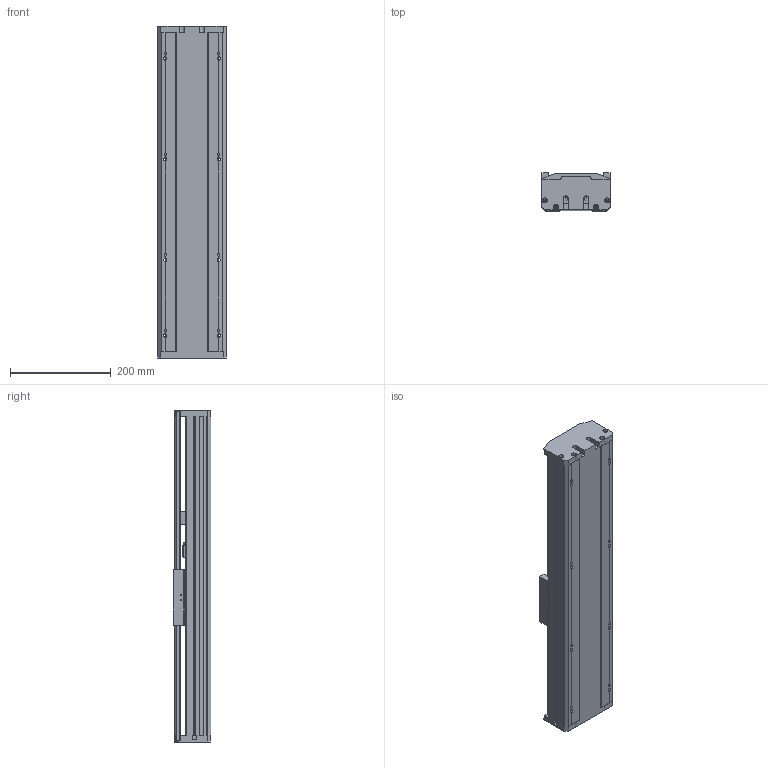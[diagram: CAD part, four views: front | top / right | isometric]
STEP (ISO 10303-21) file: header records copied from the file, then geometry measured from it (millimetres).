
FILE_DESCRIPTION(/* description */ (''),/* implementation_level */ '2;1');
FILE_NAME(/* name */ 'TKA136-FI-200_asm1.stp',/* time_stamp */ '2016-05-07T10:15:36+08:00',/* author */ (''),/* organization */ (''),/* preprocessor_version */ 'ST-DEVELOPER v15',/* originating_system */ 'SIEMENS PLM Software NX 8.5',/* authorisation */ '');
FILE_SCHEMA (('AUTOMOTIVE_DESIGN { 1 0 10303 214 3 1 1 1 }'));
Length unit declared in the file: millimetre
Products named in the file (3): 100-02; 100-01; TKA136-FI-200_asm1
Assembly tree (2 placements, depth 2):
  TKA136-FI-200_asm1
    100-01
    100-02
Bounding box: 136 x 75 x 659 mm (x, y, z)
Volume: 2257165.9 mm3; surface area: 821862.6 mm2
Topology: 2 solids, 12 shells, 919 faces, 2594 edges, 1699 vertices
Faces by surface type: cylinder 437, plane 432, cone 50
Full cylindrical faces by diameter (mm): 2.5 x4, 3.3 x8, 4.2 x8, 4.5 x20, 5 x6, 5.5 x14, 8 x20, 10 x9, 10.5 x2, 11.6 x1, 12 x8, 15 x3, 16 x5, 24 x3, 26 x1, 28 x1, 46 x1
Entity records: 31385 total; most frequent: CARTESIAN_POINT 7993, DIRECTION 4814, ORIENTED_EDGE 4744, EDGE_CURVE 2372, AXIS2_PLACEMENT_3D 1784, VERTEX_POINT 1651, LINE 1246, VECTOR 1246
